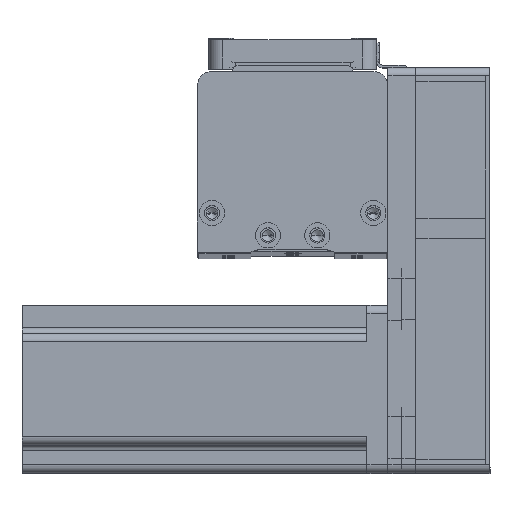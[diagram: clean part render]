
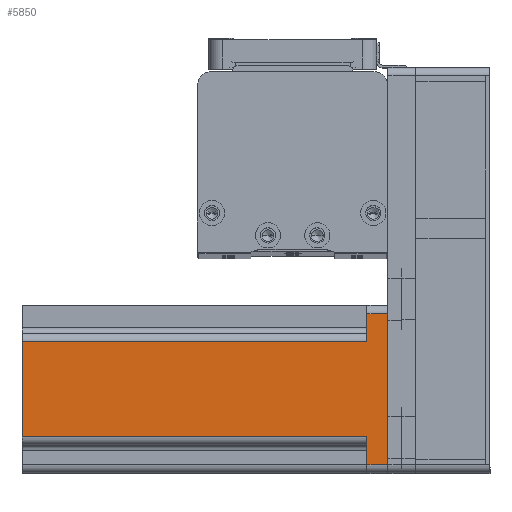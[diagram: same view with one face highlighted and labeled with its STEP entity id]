
A CAD part, top view. The second image highlights one B-rep face of the part: STEP entity #5850.
In plain terms, the highlighted planar face has unit normal (0, 0, 1) as drawn and (0, 1, 0) by its records, which use the part's own axes.
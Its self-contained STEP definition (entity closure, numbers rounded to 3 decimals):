
#1111 = DIRECTION ( 'NONE',  ( 0., 0., -1. ) ) ;
#1596 = VECTOR ( 'NONE', #1111, 1000. ) ;
#2646 = CARTESIAN_POINT ( 'NONE',  ( -17., 30., 130.7 ) ) ;
#3017 = VECTOR ( 'NONE', #27085, 1000. ) ;
#3576 = DIRECTION ( 'NONE',  ( -1., 0., 0. ) ) ;
#3660 = FACE_OUTER_BOUND ( 'NONE', #6569, .T. ) ;
#4205 = CARTESIAN_POINT ( 'NONE',  ( 20., 30., 7.5 ) ) ;
#5234 = CARTESIAN_POINT ( 'NONE',  ( 30., 30., 130.7 ) ) ;
#5850 = ADVANCED_FACE ( 'NONE', ( #3660 ), #40185, .F. ) ;
#5915 = VERTEX_POINT ( 'NONE', #40672 ) ;
#6176 = CARTESIAN_POINT ( 'NONE',  ( -27., 30., 7.5 ) ) ;
#6569 = EDGE_LOOP ( 'NONE', ( #30852, #45955, #15324, #18961, #41297, #41162, #15317, #34233 ) ) ;
#6885 = VERTEX_POINT ( 'NONE', #7991 ) ;
#7991 = CARTESIAN_POINT ( 'NONE',  ( 17., 30., 130.7 ) ) ;
#9056 = DIRECTION ( 'NONE',  ( 1., 0., 0. ) ) ;
#10491 = VERTEX_POINT ( 'NONE', #17514 ) ;
#12648 = DIRECTION ( 'NONE',  ( -1., 0., 0. ) ) ;
#13788 = LINE ( 'NONE', #29228, #22568 ) ;
#15167 = EDGE_CURVE ( 'NONE', #6885, #35622, #36613, .T. ) ;
#15317 = ORIENTED_EDGE ( 'NONE', *, *, #21853, .T. ) ;
#15324 = ORIENTED_EDGE ( 'NONE', *, *, #15167, .F. ) ;
#16465 = LINE ( 'NONE', #31571, #25280 ) ;
#17434 = LINE ( 'NONE', #47610, #47440 ) ;
#17514 = CARTESIAN_POINT ( 'NONE',  ( -27., 30., 0. ) ) ;
#18961 = ORIENTED_EDGE ( 'NONE', *, *, #23307, .T. ) ;
#19363 = LINE ( 'NONE', #4205, #38159 ) ;
#19866 = AXIS2_PLACEMENT_3D ( 'NONE', #21669, #47925, #25402 ) ;
#20140 = VERTEX_POINT ( 'NONE', #34746 ) ;
#21362 = EDGE_CURVE ( 'NONE', #5915, #20140, #23027, .T. ) ;
#21669 = CARTESIAN_POINT ( 'NONE',  ( 30., 30., 130.7 ) ) ;
#21749 = DIRECTION ( 'NONE',  ( 0., 0., 1. ) ) ;
#21853 = EDGE_CURVE ( 'NONE', #20140, #10491, #37598, .T. ) ;
#21942 = EDGE_CURVE ( 'NONE', #5915, #22428, #19363, .T. ) ;
#22299 = CARTESIAN_POINT ( 'NONE',  ( 17., 30., 7.5 ) ) ;
#22428 = VERTEX_POINT ( 'NONE', #22299 ) ;
#22568 = VECTOR ( 'NONE', #21749, 1000. ) ;
#23027 = LINE ( 'NONE', #34655, #3017 ) ;
#23307 = EDGE_CURVE ( 'NONE', #6885, #22428, #30413, .T. ) ;
#25113 = DIRECTION ( 'NONE',  ( 0., 0., 1. ) ) ;
#25280 = VECTOR ( 'NONE', #9056, 1000. ) ;
#25402 = DIRECTION ( 'NONE',  ( 1., 0., 0. ) ) ;
#26704 = DIRECTION ( 'NONE',  ( -1., 0., 0. ) ) ;
#27085 = DIRECTION ( 'NONE',  ( 0., 0., -1. ) ) ;
#27935 = EDGE_CURVE ( 'NONE', #10491, #43791, #17434, .T. ) ;
#29228 = CARTESIAN_POINT ( 'NONE',  ( -17., 30., 130.7 ) ) ;
#29825 = CARTESIAN_POINT ( 'NONE',  ( 30., 30., 0. ) ) ;
#30413 = LINE ( 'NONE', #42413, #1596 ) ;
#30852 = ORIENTED_EDGE ( 'NONE', *, *, #38161, .T. ) ;
#31303 = CARTESIAN_POINT ( 'NONE',  ( -17., 30., 7.5 ) ) ;
#31571 = CARTESIAN_POINT ( 'NONE',  ( -20., 30., 7.5 ) ) ;
#34233 = ORIENTED_EDGE ( 'NONE', *, *, #27935, .T. ) ;
#34655 = CARTESIAN_POINT ( 'NONE',  ( 27., 30., 130.7 ) ) ;
#34746 = CARTESIAN_POINT ( 'NONE',  ( 27., 30., 0. ) ) ;
#35430 = VECTOR ( 'NONE', #12648, 1000. ) ;
#35622 = VERTEX_POINT ( 'NONE', #2646 ) ;
#36613 = LINE ( 'NONE', #5234, #35430 ) ;
#37598 = LINE ( 'NONE', #29825, #47630 ) ;
#38159 = VECTOR ( 'NONE', #26704, 1000. ) ;
#38161 = EDGE_CURVE ( 'NONE', #43791, #47899, #16465, .T. ) ;
#40185 = PLANE ( 'NONE',  #19866 ) ;
#40672 = CARTESIAN_POINT ( 'NONE',  ( 27., 30., 7.5 ) ) ;
#41162 = ORIENTED_EDGE ( 'NONE', *, *, #21362, .T. ) ;
#41297 = ORIENTED_EDGE ( 'NONE', *, *, #21942, .F. ) ;
#42413 = CARTESIAN_POINT ( 'NONE',  ( 17., 30., 130.7 ) ) ;
#43791 = VERTEX_POINT ( 'NONE', #6176 ) ;
#45313 = EDGE_CURVE ( 'NONE', #47899, #35622, #13788, .T. ) ;
#45955 = ORIENTED_EDGE ( 'NONE', *, *, #45313, .T. ) ;
#47440 = VECTOR ( 'NONE', #25113, 1000. ) ;
#47610 = CARTESIAN_POINT ( 'NONE',  ( -27., 30., 130.7 ) ) ;
#47630 = VECTOR ( 'NONE', #3576, 1000. ) ;
#47899 = VERTEX_POINT ( 'NONE', #31303 ) ;
#47925 = DIRECTION ( 'NONE',  ( 0., -1., 0. ) ) ;
